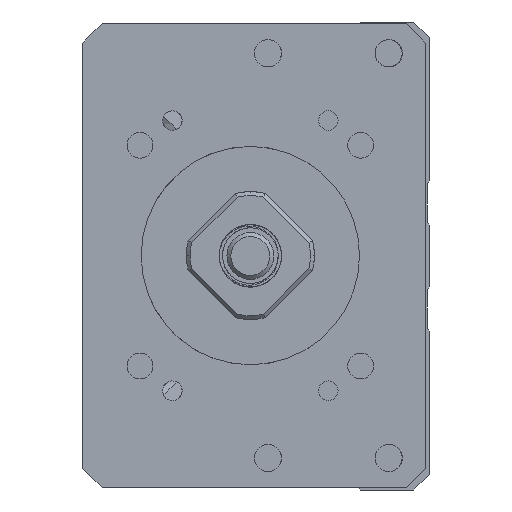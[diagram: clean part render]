
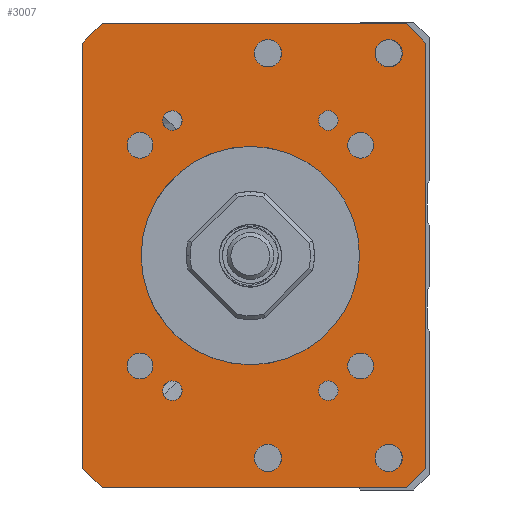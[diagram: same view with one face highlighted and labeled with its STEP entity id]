
A CAD part, left-side view. The second image highlights one B-rep face of the part: STEP entity #3007.
In plain terms, the highlighted planar face has unit normal (-1, 0, 0).
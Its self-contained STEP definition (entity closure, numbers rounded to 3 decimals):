
#1012=LINE('',#16093,#1850);
#1014=LINE('',#16117,#1852);
#1015=LINE('',#16119,#1853);
#1016=LINE('',#16121,#1854);
#1017=LINE('',#16123,#1855);
#1018=LINE('',#16125,#1856);
#1019=LINE('',#16127,#1857);
#1020=LINE('',#16129,#1858);
#1850=VECTOR('',#13085,1.);
#1852=VECTOR('',#13109,1.);
#1853=VECTOR('',#13110,1.);
#1854=VECTOR('',#13111,1.);
#1855=VECTOR('',#13112,1.);
#1856=VECTOR('',#13113,1.);
#1857=VECTOR('',#13114,1.);
#1858=VECTOR('',#13115,1.);
#2438=FACE_BOUND('',#4509,.T.);
#2439=FACE_BOUND('',#4510,.T.);
#2440=FACE_BOUND('',#4511,.T.);
#2441=FACE_BOUND('',#4512,.T.);
#2442=FACE_BOUND('',#4513,.T.);
#2443=FACE_BOUND('',#4514,.T.);
#2444=FACE_BOUND('',#4515,.T.);
#2445=FACE_BOUND('',#4516,.T.);
#2446=FACE_BOUND('',#4517,.T.);
#2447=FACE_BOUND('',#4518,.T.);
#2448=FACE_BOUND('',#4519,.T.);
#2449=FACE_BOUND('',#4520,.T.);
#2450=FACE_BOUND('',#4521,.T.);
#2451=FACE_BOUND('',#4522,.T.);
#3007=ADVANCED_FACE('',(#2438,#2439,#2440,#2441,#2442,#2443,#2444,#2445,
#2446,#2447,#2448,#2449,#2450,#2451),#3476,.F.);
#3476=PLANE('',#10839);
#4509=EDGE_LOOP('',(#6625));
#4510=EDGE_LOOP('',(#6626));
#4511=EDGE_LOOP('',(#6627));
#4512=EDGE_LOOP('',(#6628));
#4513=EDGE_LOOP('',(#6629));
#4514=EDGE_LOOP('',(#6630));
#4515=EDGE_LOOP('',(#6631));
#4516=EDGE_LOOP('',(#6632));
#4517=EDGE_LOOP('',(#6633));
#4518=EDGE_LOOP('',(#6634,#6635,#6636,#6637,#6638,#6639,#6640,#6641));
#4519=EDGE_LOOP('',(#6642));
#4520=EDGE_LOOP('',(#6643));
#4521=EDGE_LOOP('',(#6644));
#4522=EDGE_LOOP('',(#6645));
#6625=ORIENTED_EDGE('',*,*,#9393,.F.);
#6626=ORIENTED_EDGE('',*,*,#9394,.F.);
#6627=ORIENTED_EDGE('',*,*,#9395,.F.);
#6628=ORIENTED_EDGE('',*,*,#9396,.F.);
#6629=ORIENTED_EDGE('',*,*,#9397,.F.);
#6630=ORIENTED_EDGE('',*,*,#9398,.T.);
#6631=ORIENTED_EDGE('',*,*,#9399,.F.);
#6632=ORIENTED_EDGE('',*,*,#9400,.F.);
#6633=ORIENTED_EDGE('',*,*,#9401,.F.);
#6634=ORIENTED_EDGE('',*,*,#9390,.T.);
#6635=ORIENTED_EDGE('',*,*,#9402,.T.);
#6636=ORIENTED_EDGE('',*,*,#9403,.F.);
#6637=ORIENTED_EDGE('',*,*,#9404,.T.);
#6638=ORIENTED_EDGE('',*,*,#9405,.F.);
#6639=ORIENTED_EDGE('',*,*,#9406,.T.);
#6640=ORIENTED_EDGE('',*,*,#9407,.T.);
#6641=ORIENTED_EDGE('',*,*,#9408,.T.);
#6642=ORIENTED_EDGE('',*,*,#9409,.F.);
#6643=ORIENTED_EDGE('',*,*,#9410,.F.);
#6644=ORIENTED_EDGE('',*,*,#9411,.F.);
#6645=ORIENTED_EDGE('',*,*,#9370,.F.);
#8148=VERTEX_POINT('',#16016);
#8168=VERTEX_POINT('',#16092);
#8169=VERTEX_POINT('',#16094);
#8171=VERTEX_POINT('',#16100);
#8172=VERTEX_POINT('',#16102);
#8173=VERTEX_POINT('',#16104);
#8174=VERTEX_POINT('',#16106);
#8175=VERTEX_POINT('',#16108);
#8176=VERTEX_POINT('',#16110);
#8177=VERTEX_POINT('',#16112);
#8178=VERTEX_POINT('',#16114);
#8179=VERTEX_POINT('',#16116);
#8180=VERTEX_POINT('',#16118);
#8181=VERTEX_POINT('',#16120);
#8182=VERTEX_POINT('',#16122);
#8183=VERTEX_POINT('',#16124);
#8184=VERTEX_POINT('',#16126);
#8185=VERTEX_POINT('',#16128);
#8186=VERTEX_POINT('',#16131);
#8187=VERTEX_POINT('',#16133);
#8188=VERTEX_POINT('',#16135);
#9370=EDGE_CURVE('',#8148,#8148,#10042,.T.);
#9390=EDGE_CURVE('',#8169,#8168,#1012,.T.);
#9393=EDGE_CURVE('',#8171,#8171,#10051,.T.);
#9394=EDGE_CURVE('',#8172,#8172,#10052,.T.);
#9395=EDGE_CURVE('',#8173,#8173,#10053,.T.);
#9396=EDGE_CURVE('',#8174,#8174,#10054,.T.);
#9397=EDGE_CURVE('',#8175,#8175,#10055,.T.);
#9398=EDGE_CURVE('',#8176,#8176,#10056,.T.);
#9399=EDGE_CURVE('',#8177,#8177,#10057,.T.);
#9400=EDGE_CURVE('',#8178,#8178,#10058,.T.);
#9401=EDGE_CURVE('',#8179,#8179,#10059,.T.);
#9402=EDGE_CURVE('',#8168,#8180,#1014,.T.);
#9403=EDGE_CURVE('',#8181,#8180,#1015,.T.);
#9404=EDGE_CURVE('',#8181,#8182,#1016,.T.);
#9405=EDGE_CURVE('',#8183,#8182,#1017,.T.);
#9406=EDGE_CURVE('',#8183,#8184,#1018,.T.);
#9407=EDGE_CURVE('',#8184,#8185,#1019,.T.);
#9408=EDGE_CURVE('',#8185,#8169,#1020,.T.);
#9409=EDGE_CURVE('',#8186,#8186,#10060,.T.);
#9410=EDGE_CURVE('',#8187,#8187,#10061,.T.);
#9411=EDGE_CURVE('',#8188,#8188,#10062,.T.);
#10042=CIRCLE('',#10816,14.);
#10051=CIRCLE('',#10827,1.65);
#10052=CIRCLE('',#10828,1.65);
#10053=CIRCLE('',#10829,1.65);
#10054=CIRCLE('',#10830,1.65);
#10055=CIRCLE('',#10831,1.25);
#10056=CIRCLE('',#10832,1.75);
#10057=CIRCLE('',#10833,1.25);
#10058=CIRCLE('',#10834,1.75);
#10059=CIRCLE('',#10835,1.25);
#10060=CIRCLE('',#10836,1.75);
#10061=CIRCLE('',#10837,1.75);
#10062=CIRCLE('',#10838,1.25);
#10816=AXIS2_PLACEMENT_3D('',#16015,#13059,#13060);
#10827=AXIS2_PLACEMENT_3D('',#16099,#13091,#13092);
#10828=AXIS2_PLACEMENT_3D('',#16101,#13093,#13094);
#10829=AXIS2_PLACEMENT_3D('',#16103,#13095,#13096);
#10830=AXIS2_PLACEMENT_3D('',#16105,#13097,#13098);
#10831=AXIS2_PLACEMENT_3D('',#16107,#13099,#13100);
#10832=AXIS2_PLACEMENT_3D('',#16109,#13101,#13102);
#10833=AXIS2_PLACEMENT_3D('',#16111,#13103,#13104);
#10834=AXIS2_PLACEMENT_3D('',#16113,#13105,#13106);
#10835=AXIS2_PLACEMENT_3D('',#16115,#13107,#13108);
#10836=AXIS2_PLACEMENT_3D('',#16130,#13116,#13117);
#10837=AXIS2_PLACEMENT_3D('',#16132,#13118,#13119);
#10838=AXIS2_PLACEMENT_3D('',#16134,#13120,#13121);
#10839=AXIS2_PLACEMENT_3D('',#16136,#13122,#13123);
#13059=DIRECTION('',(-1.,0.,0.));
#13060=DIRECTION('',(0.,1.,0.));
#13085=DIRECTION('',(0.,0.,-1.));
#13091=DIRECTION('',(-1.,0.,0.));
#13092=DIRECTION('',(0.,0.,1.));
#13093=DIRECTION('',(-1.,0.,0.));
#13094=DIRECTION('',(0.,0.,1.));
#13095=DIRECTION('',(-1.,0.,0.));
#13096=DIRECTION('',(0.,0.,1.));
#13097=DIRECTION('',(-1.,0.,0.));
#13098=DIRECTION('',(0.,0.,1.));
#13099=DIRECTION('',(-1.,0.,0.));
#13100=DIRECTION('',(0.,1.,0.));
#13101=DIRECTION('',(1.,0.,0.));
#13102=DIRECTION('',(0.,0.,1.));
#13103=DIRECTION('',(-1.,0.,0.));
#13104=DIRECTION('',(0.,1.,0.));
#13105=DIRECTION('',(-1.,0.,0.));
#13106=DIRECTION('',(0.,0.,1.));
#13107=DIRECTION('',(-1.,0.,0.));
#13108=DIRECTION('',(0.,1.,0.));
#13109=DIRECTION('',(0.,-0.707,-0.707));
#13110=DIRECTION('',(0.,1.,0.));
#13111=DIRECTION('',(0.,-0.707,0.707));
#13112=DIRECTION('',(0.,0.,-1.));
#13113=DIRECTION('',(0.,0.707,0.707));
#13114=DIRECTION('',(0.,1.,0.));
#13115=DIRECTION('',(0.,0.707,-0.707));
#13116=DIRECTION('',(-1.,0.,0.));
#13117=DIRECTION('',(0.,0.,1.));
#13118=DIRECTION('',(-1.,0.,0.));
#13119=DIRECTION('',(0.,0.,1.));
#13120=DIRECTION('',(-1.,0.,0.));
#13121=DIRECTION('',(0.,1.,0.));
#13122=DIRECTION('',(1.,0.,0.));
#13123=DIRECTION('',(0.,1.,0.));
#16015=CARTESIAN_POINT('',(-211.,0.,-500.));
#16016=CARTESIAN_POINT('',(-211.,14.,-500.));
#16092=CARTESIAN_POINT('',(-211.,21.499,-527.25));
#16093=CARTESIAN_POINT('',(-211.,21.499,-470.25));
#16094=CARTESIAN_POINT('',(-211.,21.499,-472.75));
#16099=CARTESIAN_POINT('',(-211.,14.142,-485.858));
#16100=CARTESIAN_POINT('',(-211.,14.142,-484.208));
#16101=CARTESIAN_POINT('',(-211.,-14.142,-485.858));
#16102=CARTESIAN_POINT('',(-211.,-14.142,-484.208));
#16103=CARTESIAN_POINT('',(-211.,14.142,-514.142));
#16104=CARTESIAN_POINT('',(-211.,14.142,-512.492));
#16105=CARTESIAN_POINT('',(-211.,-14.142,-514.142));
#16106=CARTESIAN_POINT('',(-211.,-14.142,-512.492));
#16107=CARTESIAN_POINT('',(-211.,-10.,-517.321));
#16108=CARTESIAN_POINT('',(-211.,-8.75,-517.321));
#16109=CARTESIAN_POINT('',(-211.,-2.25,-525.936));
#16110=CARTESIAN_POINT('',(-211.,-2.25,-524.186));
#16111=CARTESIAN_POINT('',(-211.,10.,-482.679));
#16112=CARTESIAN_POINT('',(-211.,11.25,-482.679));
#16113=CARTESIAN_POINT('',(-211.,-2.25,-474.064));
#16114=CARTESIAN_POINT('',(-211.,-2.25,-472.314));
#16115=CARTESIAN_POINT('',(-211.,10.,-517.321));
#16116=CARTESIAN_POINT('',(-211.,11.25,-517.321));
#16117=CARTESIAN_POINT('',(-211.,18.999,-529.75));
#16118=CARTESIAN_POINT('',(-211.,18.999,-529.75));
#16119=CARTESIAN_POINT('',(-211.,-22.501,-529.75));
#16120=CARTESIAN_POINT('',(-211.,-20.001,-529.75));
#16121=CARTESIAN_POINT('',(-211.,-22.501,-527.25));
#16122=CARTESIAN_POINT('',(-211.,-22.501,-527.25));
#16123=CARTESIAN_POINT('',(-211.,-22.501,-470.25));
#16124=CARTESIAN_POINT('',(-211.,-22.501,-472.75));
#16125=CARTESIAN_POINT('',(-211.,-22.501,-472.75));
#16126=CARTESIAN_POINT('',(-211.,-20.001,-470.25));
#16127=CARTESIAN_POINT('',(-211.,-22.501,-470.25));
#16128=CARTESIAN_POINT('',(-211.,18.999,-470.25));
#16129=CARTESIAN_POINT('',(-211.,18.999,-470.25));
#16130=CARTESIAN_POINT('',(-211.,-17.75,-474.064));
#16131=CARTESIAN_POINT('',(-211.,-17.75,-472.314));
#16132=CARTESIAN_POINT('',(-211.,-17.75,-525.936));
#16133=CARTESIAN_POINT('',(-211.,-17.75,-524.186));
#16134=CARTESIAN_POINT('',(-211.,-10.,-482.679));
#16135=CARTESIAN_POINT('',(-211.,-8.75,-482.679));
#16136=CARTESIAN_POINT('',(-211.,-22.501,-470.25));
